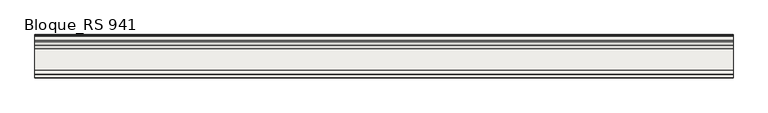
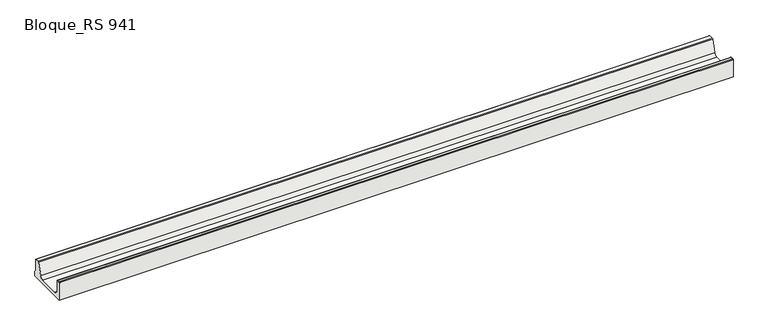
"""IFC4 building model written with IfcOpenShell, lengths in millimetres: slab geometry, ROSA GRES_RS 941 : Bloque_RS 941."""

from ifc_helpers import new_model, si_unit, point, frame, frame_2d, origin, place, context, project, spatial, polyline, circle_curve, trimmed, segment, composite_curve, outline, extrude, source, transform, mapped, element, save


def bloque_rs_941_b02997a3(model_context):
    return source(origin(), model_context, "Body", "SweptSolid", [
        extrude(outline(composite_curve([segment(polyline([(-290.0004385, 126.0), (-275.9955179, 126.0)]), True, "CONTINUOUS"), segment(trimmed(circle_curve(frame_2d((-275.9926846, 121.0029619)), 4.9970389), [point((-275.9955179, 126.0))], [point((-271.0004385, 121.221769))], False, "CARTESIAN"), True, "CONTINUOUS"), segment(polyline([(-271.0004385, 121.221769), (-271.0004385, 50.0)]), True, "CONTINUOUS"), segment(trimmed(circle_curve(frame_2d((-246.0603718, 49.9398968)), 24.9401391), [point((-271.0004385, 50.0))], [point((-245.9504385, 25.0))], True, "CARTESIAN"), True, "CONTINUOUS"), segment(polyline([(-245.9504385, 25.0), (-107.0292302, 25.0)]), True, "CONTINUOUS"), segment(trimmed(circle_curve(frame_2d((-106.8431931, 49.7467022)), 24.7474015), [point((-107.0292302, 25.0))], [point((-83.1743169, 42.5204875))], True, "CARTESIAN"), True, "CONTINUOUS"), segment(polyline([(-83.1743169, 42.5204875), (-58.098681, 122.4959025)]), True, "CONTINUOUS"), segment(trimmed(circle_curve(frame_2d((-53.3404956, 121.0174239)), 4.9825925), [point((-58.098681, 122.4959025))], [point((-53.3276984, 126.0))], False, "CARTESIAN"), True, "CONTINUOUS"), segment(polyline([(-53.3276984, 126.0), (-27.0000003, 126.0)]), True, "CONTINUOUS"), segment(trimmed(circle_curve(frame_2d((-27.0000003, 121.0)), 5.0), [point((-27.0000003, 126.0))], [point((-22.0000003, 121.0))], False, "CARTESIAN"), True, "CONTINUOUS"), segment(polyline([(-22.0000003, 121.0), (-22.0000003, 44.0), (-15.0, 32.0012714), (-15.0, 0.0), (-295.0004385, 0.0), (-295.0004385, 121.0)]), True, "CONTINUOUS"), segment(trimmed(circle_curve(frame_2d((-290.0102563, 121.0098178)), 4.9901918), [point((-295.0004385, 121.0))], [point((-290.0004385, 126.0))], False, "CARTESIAN"), True, "CONTINUOUS")], self_intersect=False)), frame((0.0, 0.0, 0.0), z_axis=(1.0, 0.0, 0.0), x_axis=(0.0, 1.0, 0.0)), (0.0, 0.0, 1.0), 4500.0),
    ])


if __name__ == "__main__":
    model = new_model("IFC4")
    model_context = context("Model", 3, world=origin())
    ifc_project = project(units=[si_unit("LENGTHUNIT", "METRE", prefix="MILLI")], contexts=[model_context])
    site = spatial("IfcSite", under=ifc_project)
    building = spatial("IfcBuilding", under=site)
    placement = place(None, origin())
    bloque_rs_941_shape = bloque_rs_941_b02997a3(model_context)
    element("IfcSlab", 1, ObjectType="ROSA GRES_RS 941 : Bloque_RS 941", at=placement, inside=building, context=model_context, shape_type="MappedRepresentation", body=[
        mapped(bloque_rs_941_shape, transform((0.0, 0.0, 0.0), x_axis=(1.0, 0.0, 0.0), y_axis=(0.0, 1.0, 0.0), z_axis=(0.0, 0.0, 1.0))),
    ])
    save(model, "model.ifc")
